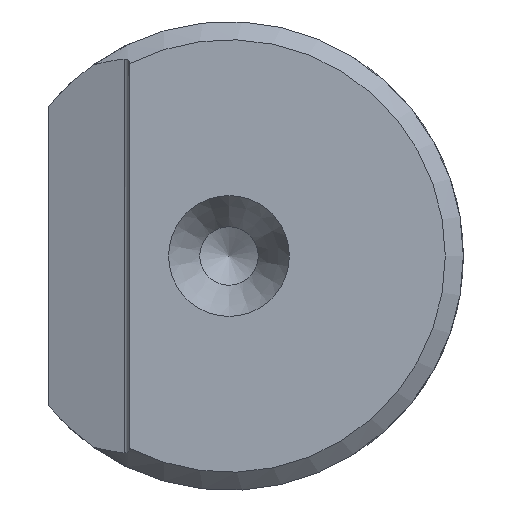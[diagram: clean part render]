
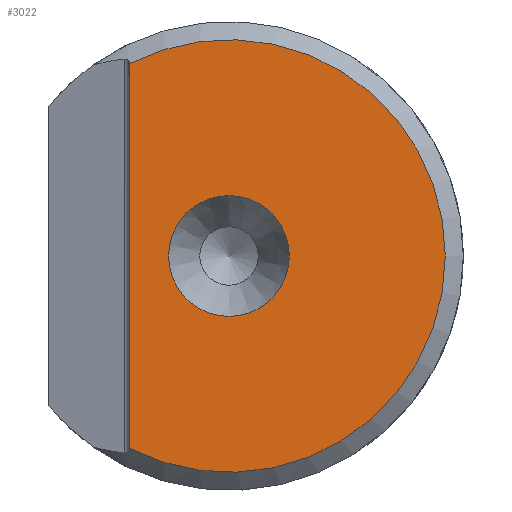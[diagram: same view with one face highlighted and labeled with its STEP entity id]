
A CAD part, left-side view. The second image highlights one B-rep face of the part: STEP entity #3022.
In plain terms, the highlighted planar face has unit normal (-1, 0, 0).
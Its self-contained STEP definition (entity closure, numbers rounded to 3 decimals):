
#112=PLANE('',#3314);
#116=FACE_BOUND('',#978,.T.);
#219=LINE('',#5577,#467);
#467=VECTOR('',#3648,10.);
#819=FACE_OUTER_BOUND('',#977,.T.);
#977=EDGE_LOOP('',(#2852,#2853));
#978=EDGE_LOOP('',(#2854));
#1082=CIRCLE('',#3049,12.);
#1089=CIRCLE('',#3305,3.35);
#1191=VERTEX_POINT('',#4108);
#1192=VERTEX_POINT('',#4119);
#1488=VERTEX_POINT('',#5864);
#1495=EDGE_CURVE('',#1191,#1192,#1082,.T.);
#1797=EDGE_CURVE('',#1191,#1192,#219,.T.);
#1940=EDGE_CURVE('',#1488,#1488,#1089,.T.);
#2852=ORIENTED_EDGE('',*,*,#1495,.F.);
#2853=ORIENTED_EDGE('',*,*,#1797,.T.);
#2854=ORIENTED_EDGE('',*,*,#1940,.T.);
#3022=ADVANCED_FACE('',(#819,#116),#112,.F.);
#3049=AXIS2_PLACEMENT_3D('',#4120,#3321,#3322);
#3305=AXIS2_PLACEMENT_3D('',#5865,#4076,#4077);
#3314=AXIS2_PLACEMENT_3D('',#5884,#4099,#4100);
#3321=DIRECTION('center_axis',(1.,0.,0.));
#3322=DIRECTION('ref_axis',(0.,-1.,0.));
#3648=DIRECTION('',(0.,0.,-1.));
#4076=DIRECTION('center_axis',(1.,0.,0.));
#4077=DIRECTION('ref_axis',(0.,0.,-1.));
#4099=DIRECTION('center_axis',(1.,0.,0.));
#4100=DIRECTION('ref_axis',(0.,0.,-1.));
#4108=CARTESIAN_POINT('',(-75.,5.5,10.665));
#4119=CARTESIAN_POINT('',(-75.,5.5,-10.665));
#4120=CARTESIAN_POINT('Origin',(-75.,0.,0.));
#5577=CARTESIAN_POINT('',(-75.,5.5,0.));
#5864=CARTESIAN_POINT('',(-75.,0.,3.35));
#5865=CARTESIAN_POINT('Origin',(-75.,0.,0.));
#5884=CARTESIAN_POINT('Origin',(-75.,-1.5,0.));
